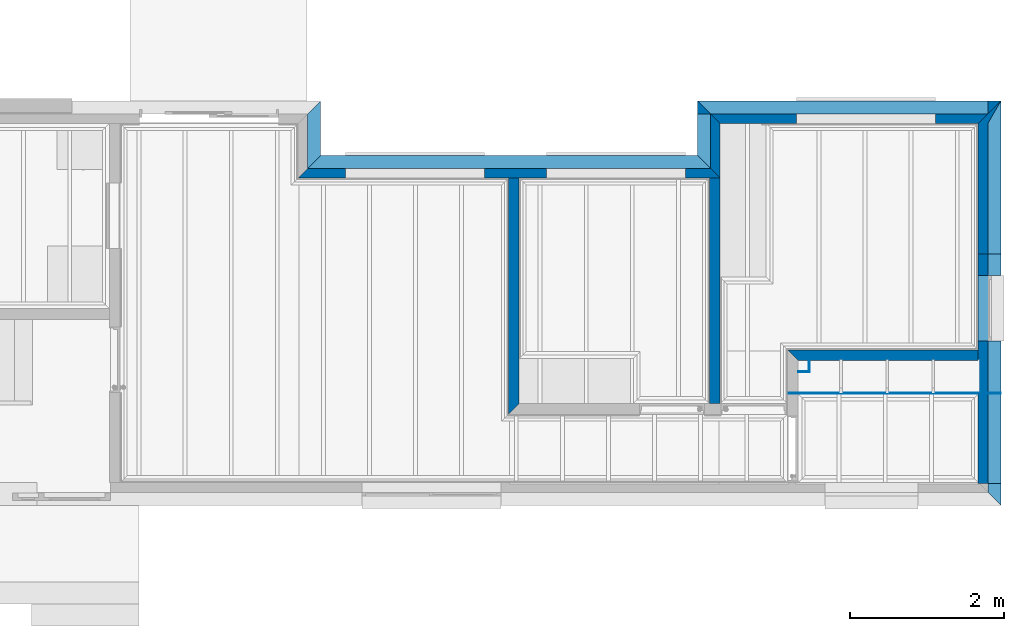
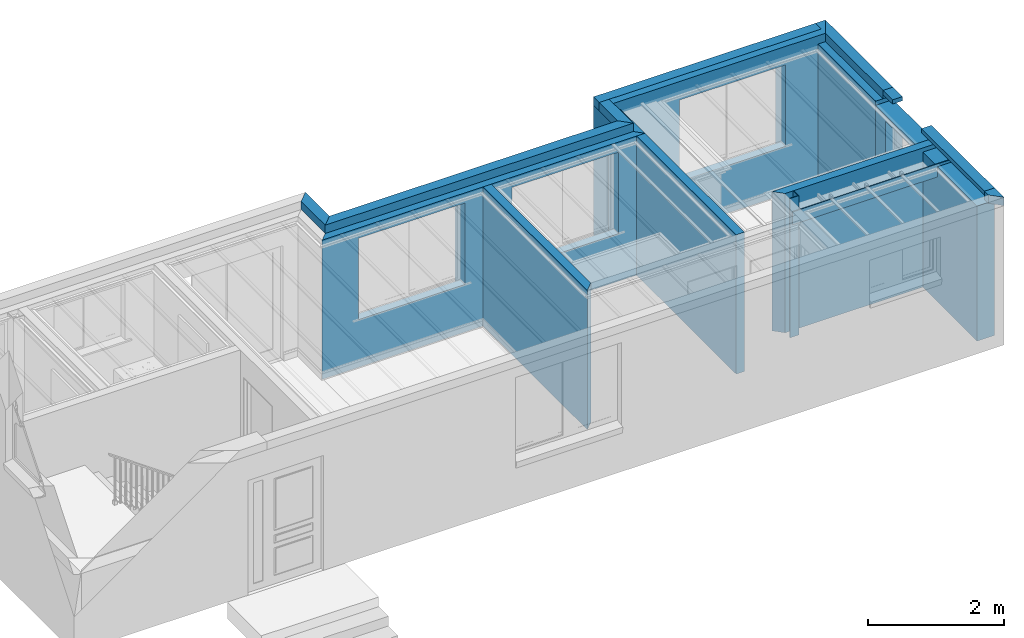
# One storey, part 3 of 15: 19 walls.
"""IFC2X3 building model written with IfcOpenShell, lengths in millimetres."""

from ifc_helpers import new_model, entity, si_unit, converted_unit, money_unit, direction, frame, origin_with_axes, place, context, subcontext, project, spatial, faceted_brep, material, material_list, type_object, element, save


model = new_model("IFC2X3")

# Units and contexts
model_context = context("Model", 3, precision=1e-05, world=origin_with_axes(), true_north=direction((0.0, 1.0)))
body_context = subcontext(model_context, "Body", "Model", "MODEL_VIEW")
ifc_project = project(units=[si_unit("LENGTHUNIT", "METRE", prefix="MILLI"), si_unit("AREAUNIT", "SQUARE_METRE"), si_unit("VOLUMEUNIT", "CUBIC_METRE"), converted_unit("PLANEANGLEUNIT", "DEGREE", entity("IfcPlaneAngleMeasure", 0.0174532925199), si_unit("PLANEANGLEUNIT", "RADIAN"), dimensions=[0, 0, 0, 0, 0, 0, 0]), si_unit("SOLIDANGLEUNIT", "STERADIAN"), money_unit("AUD"), si_unit("TIMEUNIT", "SECOND"), si_unit("MASSUNIT", "GRAM"), si_unit("THERMODYNAMICTEMPERATUREUNIT", "DEGREE_CELSIUS"), si_unit("LUMINOUSINTENSITYUNIT", "LUMEN")], contexts=[model_context])

# Site, building, storey
site_placement = place(None, origin_with_axes())
site = spatial("IfcSite", under=ifc_project, at=site_placement, Name="Lot 1. East Hills", CompositionType="ELEMENT")
building_placement = place(site_placement, origin_with_axes())
building = spatial("IfcBuilding", under=site, at=building_placement, Name="Proposed Units 7 & 8", CompositionType="ELEMENT")
storey_placement = place(building_placement, frame((0.0, 0.0, 3202.0), z_axis=(0.0, 0.0, 1.0), x_axis=(1.0, 0.0, 0.0)))
storey = spatial("IfcBuildingStorey", under=building, at=storey_placement, Name="Ground", CompositionType="ELEMENT", Elevation=3202.0)

# Walls
ifc_material_1 = material(Name="Empty Fill")
wall_type_1 = type_object("IfcWallType", Name="Empty Fill 13", PredefinedType="NOTDEFINED")
wall_1_placement = place(storey_placement, frame((13339.9999983, 1883.00688775, 0.0), z_axis=(0.0, 0.0, 1.0), x_axis=(0.0, -1.0, 0.0)))
element("IfcWall", 1, at=wall_1_placement, inside=storey, type_object=wall_type_1, material=ifc_material_1, Name="Wall008 Empty Fill Wall", context=body_context, shape_type="Brep", body=[
    faceted_brep([(136.993085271, -13.0, 2507.0), (149.993085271, 0.0, 2507.0), (0.0, 0.0, 2507.0), (0.0, -13.0, 2507.0), (136.993085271, -13.0, 0.0), (149.993085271, 0.0, 0.0), (0.0, 0.0, 0.0), (0.0, -13.0, 0.0)], [[[0, 1, 2, 3]], [[1, 0, 4, 5]], [[1, 5, 6, 2]], [[2, 6, 7, 3]], [[4, 0, 3, 7]], [[5, 4, 7, 6]]]),
])
wall_2_placement = place(storey_placement, frame((13050.0000008, 1733.01380248, 0.0), z_axis=(0.0, 0.0, 1.0), x_axis=(1.0, 0.0, 0.0)))
element("IfcWall", 2, at=wall_2_placement, inside=storey, type_object=wall_type_1, material=ifc_material_1, Name="Wall007 Empty Fill Wall", context=body_context, shape_type="Brep", body=[
    faceted_brep([(289.999997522, 0.0, 0.0), (289.999997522, 0.0, 2507.0), (139.999999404, 0.0, 2507.0), (139.999999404, 0.0, 0.0), (276.999997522, 13.0, 2507.0), (276.999997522, 13.0, 0.0), (139.999999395, 13.0, 2507.0), (139.999999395, 13.0, 0.0)], [[[0, 1, 2, 3]], [[4, 1, 0, 5]], [[1, 4, 6, 2]], [[2, 6, 7, 3]], [[5, 0, 3, 7]], [[4, 5, 7, 6]]]),
])
wall_3_placement = place(storey_placement, frame((13065.000001, 1447.99947929, 2250.05864749), z_axis=(0.0, 0.0, 1.0), x_axis=(1.0, 0.0, 0.0)))
element("IfcWall", 3, at=wall_3_placement, inside=storey, type_object=wall_type_1, material=ifc_material_1, Name="Wall007 Empty Fill Wall", context=body_context, shape_type="Brep", body=[
    faceted_brep([(2764.99999901, 0.0, 181.94135251), (2764.99999901, 13.0, 181.94135251), (2764.99999901, 13.0, 231.94135251), (2764.99999901, 0.0, 231.94135251), (2470.0000002, 13.0, 181.94135251), (2470.0000002, 0.0, 181.94135251), (2470.0000002, 13.0, 0.0), (0.0, 13.0, 0.0), (0.0, 13.0, 231.94135251), (0.0, 0.0, 231.94135251), (0.0, 0.0, 0.0), (2470.0000002, 0.0, 0.0)], [[[0, 1, 2, 3]], [[4, 1, 0, 5]], [[4, 6, 7, 8, 2, 1]], [[2, 8, 9, 3]], [[5, 0, 3, 9, 10, 11]], [[6, 4, 5, 11]], [[6, 11, 10, 7]], [[8, 7, 10, 9]]]),
])
ifc_material_2 = material(Name="Brickwork Faced")
ifc_material_3 = material(Name="Cavity")
ifc_material_4 = material(Name="Cement Render")
ifc_material_list_1 = material_list([ifc_material_2, ifc_material_3, ifc_material_2, ifc_material_4])
wall_type_2 = type_object("IfcWallType", Name="Cavity wall 280 295", PredefinedType="NOTDEFINED")
wall_4_placement = place(storey_placement, frame((15830.0, 3269.99994807, 0.0), z_axis=(0.0, 0.0, 1.0), x_axis=(0.0, 1.0, 0.0)))
element("IfcWall", 4, at=wall_4_placement, inside=storey, type_object=wall_type_2, material=ifc_material_list_1, Name="EXT-WALL-G08 Cavity wall 280 Wall", context=body_context, shape_type="Brep", body=[
    faceted_brep([(1993.00005193, 0.0, 0.0), (1993.00005193, 0.0, 2507.0), (0.0, 0.0, 2507.0), (0.0, 0.0, 0.0), (1698.00005312, 294.999998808, 2507.0), (1698.00005312, 294.999998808, 0.0), (0.0, 294.999998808, 2507.0), (0.0, 294.999998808, 0.0)], [[[0, 1, 2, 3]], [[4, 1, 0, 5]], [[1, 4, 6, 2]], [[6, 7, 3, 2]], [[5, 0, 3, 7]], [[4, 5, 7, 6]]]),
])
wall_5_placement = place(storey_placement, frame((15830.0, 280.000032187, 0.0), z_axis=(0.0, 0.0, 1.0), x_axis=(0.0, 1.0, 0.0)))
element("IfcWall", 5, at=wall_5_placement, inside=storey, type_object=wall_type_2, material=ifc_material_list_1, Name="EXT-WALL-G06 Cavity wall 280 Wall", context=body_context, shape_type="Brep", body=[
    faceted_brep([(2708.32107156, 120.0, 343.0), (2708.32107156, 157.504447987, 343.0), (2708.32107156, 157.504447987, 197.050785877), (2708.32107156, 0.0, 197.050785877), (2708.32107156, 0.0, 343.0), (2708.32107156, 0.0, 2325.0), (2708.32107156, 120.0, 2325.0), (2708.32107156, 294.999998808, 2325.0), (2708.32107156, 294.999998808, 343.0), (1858.32107156, 157.504447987, 343.0), (1858.32107156, 157.504447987, 197.050785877), (1858.32107156, 0.0, 197.050785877), (2989.99991588, 0.0, 0.0), (2989.99991588, 0.0, 2432.0), (0.0, 0.0, 2432.0), (0.0, 0.0, 0.0), (1858.32107156, 0.0, 343.0), (1858.32107156, 0.0, 2325.0), (1858.32107156, 120.0, 2325.0), (1858.32107156, 294.999998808, 2325.0), (0.0, 294.999998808, 2432.0), (2989.99991588, 294.999998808, 2432.0), (2989.99991588, 294.999998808, 0.0), (0.0, 294.999998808, 0.0), (1858.32107156, 294.999998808, 343.0), (1858.32107156, 120.0, 343.0)], [[[0, 1, 2, 3, 4, 5, 6]], [[1, 0, 6, 7, 8]], [[1, 9, 10, 2]], [[11, 3, 2, 10]], [[12, 13, 14, 15], [11, 16, 17, 5, 4, 3]], [[17, 18, 6, 5]], [[7, 6, 18, 19]], [[20, 21, 22, 23], [19, 24, 8, 7]], [[9, 1, 8, 24]], [[16, 11, 10, 9, 25, 18, 17]], [[21, 13, 12, 22]], [[20, 14, 13, 21]], [[23, 15, 14, 20]], [[22, 12, 15, 23]], [[25, 9, 24, 19, 18]]]),
])
wall_6_placement = place(storey_placement, frame((11880.0000007, 4553.0, 0.0), z_axis=(0.0, 0.0, 1.0), x_axis=(0.0, 1.0, 0.0)))
element("IfcWall", 6, at=wall_6_placement, inside=storey, type_object=wall_type_2, material=ifc_material_list_1, Name="EXT-WALL-G02 Cavity wall 280 Wall", context=body_context, shape_type="Brep", body=[
    faceted_brep([(415.000001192, -294.999998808, 0.0), (415.000001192, -294.999998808, 2507.0), (-294.999998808, -294.999998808, 2507.0), (-294.999998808, -294.999998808, 0.0), (710.0, 0.0, 2507.0), (710.0, 0.0, 0.0), (0.0, 0.0, 2507.0), (0.0, 0.0, 0.0)], [[[0, 1, 2, 3]], [[4, 1, 0, 5]], [[1, 4, 6, 2]], [[2, 6, 7, 3]], [[5, 0, 3, 7]], [[4, 5, 7, 6]]]),
])
wall_7_placement = place(storey_placement, frame((11880.0000007, 4553.0, 0.0), z_axis=(0.0, 0.0, 1.0), x_axis=(-1.0, 0.0, 0.0)))
element("IfcWall", 7, at=wall_7_placement, inside=storey, type_object=wall_type_2, material=ifc_material_list_1, Name="EXT-WALL-G01 Cavity wall 280 Wall", context=body_context, shape_type="Brep", body=[
    faceted_brep([(0.0, 0.0, 2507.0), (0.0, 0.0, 0.0), (4905.00000067, 0.0, 0.0), (4905.00000067, 0.0, 2507.0), (1967.50000112, 0.0, 711.050785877), (157.500001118, 0.0, 711.050785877), (157.500001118, 0.0, 857.0), (157.500001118, 0.0, 2324.0), (1967.50000112, 0.0, 2324.0), (1967.50000112, 0.0, 857.0), (2770.00000067, 0.0, 711.050785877), (2770.00000067, 0.0, 2324.0), (4580.00000067, 0.0, 2324.0), (4580.00000067, 0.0, 711.050785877), (-294.999998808, 294.999998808, 0.0), (-294.999998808, 294.999998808, 2507.0), (5199.99999948, 294.999998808, 0.0), (5199.99999948, 294.999998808, 2507.0), (1967.50000112, 157.504447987, 711.050785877), (157.500001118, 157.504447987, 711.050785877), (157.500001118, 157.504447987, 857.0), (157.500001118, 120.0, 857.0), (157.500001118, 120.0, 2324.0), (1967.50000112, 120.0, 2324.0), (1967.50000112, 120.0, 857.0), (1967.50000112, 157.504447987, 857.0), (2770.00000067, 157.504447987, 857.0), (2770.00000067, 120.0, 857.0), (2770.00000067, 120.0, 2324.0), (2770.00000067, 157.504447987, 711.050785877), (4580.00000067, 120.0, 2324.0), (4580.00000067, 120.0, 857.0), (4580.00000067, 157.504447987, 857.0), (4580.00000067, 157.504447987, 711.050785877), (4580.00000067, 294.999998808, 857.0), (4580.00000067, 294.999998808, 2324.0), (2770.00000067, 294.999998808, 2324.0), (2770.00000067, 294.999998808, 857.0), (157.500001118, 294.999998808, 857.0), (1967.50000112, 294.999998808, 857.0), (1967.50000112, 294.999998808, 2324.0), (157.500001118, 294.999998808, 2324.0)], [[[0, 1, 2, 3], [4, 5, 6, 7, 8, 9], [10, 11, 12, 13]], [[14, 1, 0, 15]], [[1, 14, 16, 2]], [[2, 16, 17, 3]], [[15, 0, 3, 17]], [[5, 4, 18, 19]], [[6, 5, 19, 20, 21, 22, 7]], [[7, 22, 23, 8]], [[24, 25, 18, 4, 9, 8, 23]], [[26, 27, 28, 11, 10, 29]], [[28, 30, 12, 11]], [[13, 12, 30, 31, 32, 33]], [[13, 33, 29, 10]], [[14, 15, 17, 16], [34, 35, 36, 37], [38, 39, 40, 41]], [[25, 20, 19, 18]], [[21, 20, 38, 41, 22]], [[40, 23, 22, 41]], [[25, 24, 23, 40, 39]], [[37, 36, 28, 27, 26]], [[26, 29, 33, 32]], [[30, 28, 36, 35]], [[30, 35, 34, 32, 31]], [[32, 34, 37, 26]], [[20, 25, 39, 38]]]),
])
wall_8_placement = place(storey_placement, frame((15830.0, 5263.0, 0.0), z_axis=(0.0, 0.0, 1.0), x_axis=(-1.0, 0.0, 0.0)))
element("IfcWall", 8, at=wall_8_placement, inside=storey, type_object=wall_type_2, material=ifc_material_list_1, Name="EXT-WALL-G03 Cavity wall 280 Wall", context=body_context, shape_type="Brep", body=[
    faceted_brep([(0.0, 0.0, 2657.0), (0.0, 0.0, 2507.0), (0.0, 0.0, 0.0), (3949.99999933, 0.0, 0.0), (3949.99999933, 0.0, 2507.0), (3949.99999933, 0.0, 2657.0), (2658.20410456, 0.0, 711.050785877), (848.204104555, 0.0, 711.050785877), (848.204104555, 0.0, 857.0), (848.204104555, 0.0, 2324.0), (2658.20410456, 0.0, 2324.0), (2658.20410456, 0.0, 857.0), (169.999999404, 294.999998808, 2657.0), (169.999999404, 294.999998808, 2507.0), (294.999998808, 294.999998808, 2507.0), (294.999998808, 294.999998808, 0.0), (3655.00000052, 294.999998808, 0.0), (3655.00000052, 294.999998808, 2507.0), (3949.99999933, 294.999998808, 2507.0), (3949.99999933, 294.999998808, 2657.0), (2658.20410456, 157.504447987, 711.050785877), (848.204104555, 157.504447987, 711.050785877), (848.204104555, 157.504447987, 857.0), (848.204104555, 120.0, 857.0), (848.204104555, 120.0, 2324.0), (2658.20410456, 120.0, 2324.0), (2658.20410456, 120.0, 857.0), (2658.20410456, 157.504447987, 857.0), (848.204104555, 294.999998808, 857.0), (2658.20410456, 294.999998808, 857.0), (2658.20410456, 294.999998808, 2324.0), (848.204104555, 294.999998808, 2324.0)], [[[0, 1, 2, 3, 4, 5], [6, 7, 8, 9, 10, 11]], [[1, 0, 12, 13]], [[2, 1, 14, 15]], [[3, 2, 15, 16]], [[16, 17, 4, 3]], [[18, 19, 5, 4]], [[0, 5, 19, 12]], [[7, 6, 20, 21]], [[8, 7, 21, 22, 23, 24, 9]], [[9, 24, 25, 10]], [[26, 27, 20, 6, 11, 10, 25]], [[12, 19, 18, 17, 16, 15, 14, 13], [28, 29, 30, 31]], [[1, 13, 14]], [[17, 18, 4]], [[27, 22, 21, 20]], [[23, 22, 28, 31, 24]], [[30, 25, 24, 31]], [[27, 26, 25, 30, 29]], [[22, 27, 29, 28]]]),
])
ifc_material_list_2 = material_list([ifc_material_2, ifc_material_3])
wall_type_3 = type_object("IfcWallType", Name="Cavity wall @slab 0017047810 170", PredefinedType="NOTDEFINED")
wall_9_placement = place(storey_placement, frame((15830.0, 2988.32110375, 2582.0), z_axis=(0.0, 0.0, 1.0), x_axis=(0.0, 1.0, 0.0)))
element("IfcWall", 9, at=wall_9_placement, inside=storey, type_object=wall_type_3, material=ifc_material_list_2, Name="EXT-WALL-GH05 Cavity wall @slab 0017047810 Wall", context=body_context, shape_type="Brep", body=[
    faceted_brep([(0.0, 0.0, 0.0), (281.678844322, 0.0, 0.0), (281.678844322, 0.0, 75.0), (0.0, 0.0, 75.0), (0.0, 169.999999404, 0.0), (281.678844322, 169.999999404, 0.0), (281.678844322, 169.999999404, 75.0), (0.0, 169.999999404, 75.0)], [[[0, 1, 2, 3]], [[4, 5, 1, 0]], [[5, 6, 2, 1]], [[6, 7, 3, 2]], [[7, 4, 0, 3]], [[4, 7, 6, 5]]]),
])
wall_10_placement = place(storey_placement, frame((15830.0000037, 279.999987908, 2582.0), z_axis=(0.0, 0.0, 1.0), x_axis=(-1.99843848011e-09, 1.0, 0.0)))
element("IfcWall", 10, at=wall_10_placement, inside=storey, type_object=wall_type_3, material=ifc_material_list_2, Name="EXT-WALL-GH05 Cavity wall @slab 0017047810 Wall", context=body_context, shape_type="Brep", body=[
    faceted_brep([(0.0, 0.0, 0.0), (1858.32111584, 0.0, 0.0), (1858.32111584, 0.0, 75.0), (0.0, 0.0, 75.0), (0.0, 169.999999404, 0.0), (1858.32111584, 169.999999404, 0.0), (1858.32111584, 169.999999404, 75.0), (0.0, 169.999999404, 75.0)], [[[0, 1, 2, 3]], [[4, 5, 1, 0]], [[5, 6, 2, 1]], [[6, 7, 3, 2]], [[7, 4, 0, 3]], [[4, 7, 6, 5]]]),
])
wall_11_placement = place(storey_placement, frame((15829.9999966, -1.99807592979, 2507.0), z_axis=(0.0, 0.0, 1.0), x_axis=(2.53921245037e-08, 1.0, 0.0)))
element("IfcWall", 11, at=wall_11_placement, inside=storey, type_object=wall_type_3, material=ifc_material_list_2, Name="EXT-WALL-GH05 Cavity wall @slab 0017047810 Wall", context=body_context, shape_type="Brep", body=[
    faceted_brep([(169.999995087, 169.999999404, 150.0), (0.0, 0.0, 150.0), (281.998063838, 0.0, 150.0), (281.998063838, 169.999999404, 150.0), (169.999995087, 169.999999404, 0.0), (0.0, 0.0, 0.0), (281.998063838, 0.0, 0.0), (281.998063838, 169.999999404, 0.0)], [[[0, 1, 2, 3]], [[1, 0, 4, 5]], [[1, 5, 6, 2]], [[7, 3, 2, 6]], [[4, 0, 3, 7]], [[5, 4, 7, 6]]]),
])
wall_12_placement = place(storey_placement, frame((11880.0, 4553.0, 2507.0), z_axis=(0.0, 0.0, 1.0), x_axis=(-1.0, 0.0, 0.0)))
element("IfcWall", 12, at=wall_12_placement, inside=storey, type_object=wall_type_3, material=ifc_material_list_2, Name="EXT-WALL-GH03 Cavity wall @slab 0017047810 Wall", context=body_context, shape_type="Brep", body=[
    faceted_brep([(4905.0, 0.0, 0.0), (4905.0, 0.0, 150.0), (0.0, 0.0, 150.0), (0.0, 0.0, 0.0), (5074.9999994, 169.999999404, 150.0), (5074.9999994, 169.999999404, 0.0), (-169.999999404, 169.999999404, 150.0), (-169.999999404, 169.999999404, 0.0)], [[[0, 1, 2, 3]], [[4, 1, 0, 5]], [[1, 4, 6, 2]], [[2, 6, 7, 3]], [[5, 0, 3, 7]], [[4, 5, 7, 6]]]),
])
wall_13_placement = place(storey_placement, frame((15830.0, 5263.0, 2507.0), z_axis=(0.0, 0.0, 1.0), x_axis=(-1.0, 0.0, 0.0)))
element("IfcWall", 13, at=wall_13_placement, inside=storey, type_object=wall_type_3, material=ifc_material_list_2, Name="EXT-WALL-GH08 Cavity wall @slab 0017047810 Wall", context=body_context, shape_type="Brep", body=[
    faceted_brep([(169.999999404, 169.999999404, 150.0), (169.999999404, 0.0, 150.0), (3950.0, 0.0, 150.0), (3950.0, 169.999999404, 150.0), (169.999999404, 0.0, 0.0), (169.999999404, 169.999999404, 0.0), (3950.0, 0.0, 0.0), (3950.0, 169.999999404, 0.0)], [[[0, 1, 2, 3]], [[4, 1, 0, 5]], [[1, 4, 6, 2]], [[7, 3, 2, 6]], [[5, 0, 3, 7]], [[4, 5, 7, 6]]]),
])
wall_14_placement = place(storey_placement, frame((15830.0, 3269.99994807, 2507.0), z_axis=(0.0, 0.0, 1.0), x_axis=(0.0, 1.0, 0.0)))
element("IfcWall", 14, at=wall_14_placement, inside=storey, type_object=wall_type_3, material=ifc_material_list_2, Name="EXT-WALL-GH05 Cavity wall @slab 0017047810 Wall", context=body_context, shape_type="Brep", body=[
    faceted_brep([(1993.00005193, 0.0, 0.0), (1993.00005193, 0.0, 150.0), (0.0, 0.0, 150.0), (0.0, 0.0, 0.0), (1698.00005312, 169.999999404, 150.0), (1698.00005312, 169.999999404, 0.0), (0.0, 169.999999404, 150.0), (0.0, 169.999999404, 0.0)], [[[0, 1, 2, 3]], [[4, 1, 0, 5]], [[1, 4, 6, 2]], [[6, 7, 3, 2]], [[5, 0, 3, 7]], [[4, 5, 7, 6]]]),
])
wall_type_4 = type_object("IfcWallType", Name="Cavity wall @slab 170", PredefinedType="NOTDEFINED")
wall_15_placement = place(storey_placement, frame((6975.0, 4553.0, 2507.0), z_axis=(0.0, 0.0, 1.0), x_axis=(0.0, 1.0, 0.0)))
element("IfcWall", 15, at=wall_15_placement, inside=storey, type_object=wall_type_4, material=ifc_material_list_2, Name="EXT-WALL-GH02 Cavity wall @slab Wall", context=body_context, shape_type="Brep", body=[
    faceted_brep([(710.0, 0.0, 0.0), (710.0, 0.0, 150.0), (0.0, 0.0, 150.0), (0.0, 0.0, 0.0), (540.000000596, 169.999999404, 150.0), (540.000000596, 169.999999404, 0.0), (-169.999999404, 169.999999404, 150.0), (-169.999999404, 169.999999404, 0.0)], [[[0, 1, 2, 3]], [[4, 1, 0, 5]], [[1, 4, 6, 2]], [[2, 6, 7, 3]], [[5, 0, 3, 7]], [[4, 5, 7, 6]]]),
])
wall_16_placement = place(storey_placement, frame((11880.0, 5263.0, 2507.0), z_axis=(0.0, 0.0, 1.0), x_axis=(0.0, -1.0, 0.0)))
element("IfcWall", 16, at=wall_16_placement, inside=storey, type_object=wall_type_4, material=ifc_material_list_2, Name="EXT-WALL-GH04 Cavity wall @slab Wall", context=body_context, shape_type="Brep", body=[
    faceted_brep([(710.0, 0.0, 150.0), (879.999999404, 169.999999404, 150.0), (169.999999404, 169.999999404, 150.0), (169.999999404, 0.0, 150.0), (710.0, 0.0, 0.0), (879.999999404, 169.999999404, 0.0), (169.999999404, 169.999999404, 0.0), (169.999999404, 0.0, 0.0)], [[[0, 1, 2, 3]], [[1, 0, 4, 5]], [[1, 5, 6, 2]], [[3, 2, 6, 7]], [[4, 0, 3, 7]], [[5, 4, 7, 6]]]),
])
ifc_material_list_3 = material_list([ifc_material_4, ifc_material_2, ifc_material_4])
wall_type_5 = type_object("IfcWallType", Name="Solid Brick Render Both Side 140 140", PredefinedType="NOTDEFINED")
wall_17_placement = place(storey_placement, frame((13050.0000007, 1882.99999933, 0.0), z_axis=(0.0, 0.0, 1.0), x_axis=(1.0, 0.0, 0.0)))
element("IfcWall", 17, at=wall_17_placement, inside=storey, type_object=wall_type_5, material=ifc_material_list_3, Name="INT-WALLG06 Solid Brick Render Both Side 140 Wall", context=body_context, shape_type="Brep", body=[
    faceted_brep([(2779.99999932, 0.0, 2432.0), (2779.99999932, 139.999999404, 2432.0), (2779.99999932, 139.999999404, 2507.0), (2779.99999932, 0.0, 2507.0), (2485.00000051, 139.999999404, 2432.0), (2485.00000051, 0.0, 2432.0), (2485.00000051, 139.999999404, 0.0), (-9.79643033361e-08, 139.999999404, 0.0), (-9.79643033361e-08, 139.999999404, 2507.0), (139.999999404, 0.0, 2507.0), (139.999999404, 0.0, 0.0), (2485.00000051, 0.0, 0.0)], [[[0, 1, 2, 3]], [[4, 1, 0, 5]], [[4, 6, 7, 8, 2, 1]], [[8, 9, 3, 2]], [[5, 0, 3, 9, 10, 11]], [[6, 4, 5, 11]], [[6, 11, 10, 7]], [[9, 8, 7, 10]]]),
])
wall_18_placement = place(storey_placement, frame((9419.99999955, 1183.00000045, 0.0), z_axis=(0.0, 0.0, 1.0), x_axis=(0.0, 1.0, 0.0)))
element("IfcWall", 18, at=wall_18_placement, inside=storey, type_object=wall_type_5, material=ifc_material_list_3, Name="INT-WALLG03 Solid Brick Render Both Side 140 Wall", context=body_context, shape_type="Brep", body=[
    faceted_brep([(3075.00000075, -139.999999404, 0.0), (3075.00000075, -139.999999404, 2507.0), (139.999999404, -139.999999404, 2507.0), (139.999999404, -139.999999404, 0.0), (3075.00000075, 0.0, 2507.0), (3075.00000075, 0.0, 0.0), (0.0, 0.0, 2507.0), (0.0, 0.0, 0.0)], [[[0, 1, 2, 3]], [[4, 1, 0, 5]], [[1, 4, 6, 2]], [[2, 6, 7, 3]], [[5, 0, 3, 7]], [[4, 5, 7, 6]]]),
])
wall_19_placement = place(storey_placement, frame((12174.9999995, 4258.00000119, 0.0), z_axis=(0.0, 0.0, 1.0), x_axis=(0.0, -1.0, 0.0)))
element("IfcWall", 19, at=wall_19_placement, inside=storey, type_object=wall_type_5, material=ifc_material_list_3, Name="INT-WALLG05 Solid Brick Render Both Side 140 Wall", context=body_context, shape_type="Brep", body=[
    faceted_brep([(2935.00000134, -139.999999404, 2507.0), (2935.00000134, 0.0, 2507.0), (0.0, 0.0, 2507.0), (0.0, -139.999999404, 2507.0), (2935.00000134, 0.0, 0.0), (2935.00000134, -139.999999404, 0.0), (0.0, 0.0, 0.0), (0.0, -139.999999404, 0.0)], [[[0, 1, 2, 3]], [[4, 1, 0, 5]], [[1, 4, 6, 2]], [[2, 6, 7, 3]], [[5, 0, 3, 7]], [[4, 5, 7, 6]]]),
])

save(model, "model.ifc")
